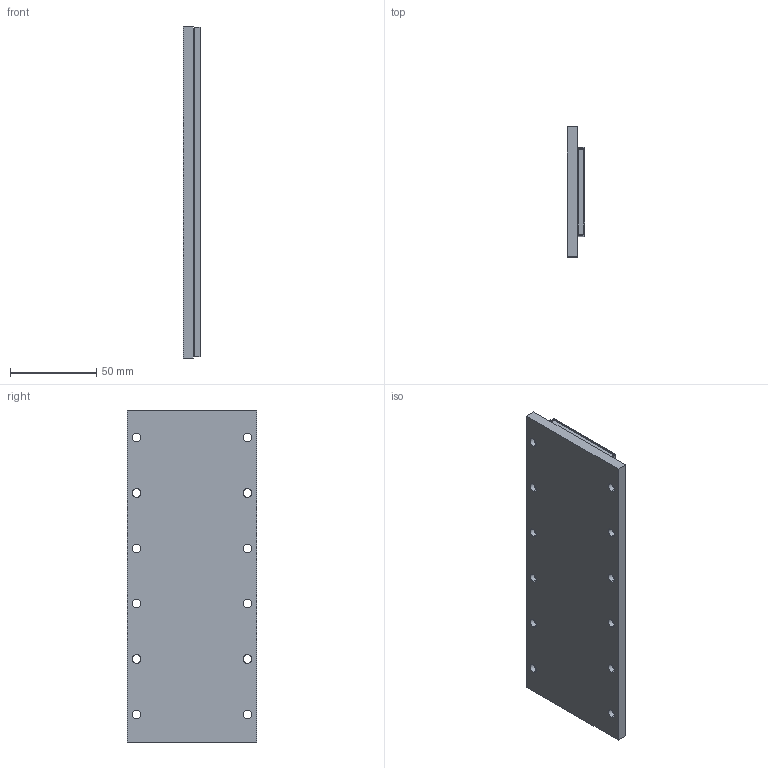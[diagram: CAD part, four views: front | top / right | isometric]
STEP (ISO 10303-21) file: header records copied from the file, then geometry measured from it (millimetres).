
FILE_DESCRIPTION (( 'STEP AP214' ), '1' );
FILE_NAME ('PIXM050-TL192-C.STEP', '2019-03-08T10:33:38', ( '' ), ( '' ), 'SwSTEP 2.0', 'SolidWorks 2016', '' );
FILE_SCHEMA (( 'AUTOMOTIVE_DESIGN' ));
Length unit declared in the file: millimetre
Products named in the file (4): 001SM050LXXX02_TL192; 001SM050000001-CUSTOMER_TL192; 001SM050LXXX01_TL192; PIXM050-TL192-C
Assembly tree (3 placements, depth 2):
  PIXM050-TL192-C
    001SM050LXXX01_TL192
    001SM050000001-CUSTOMER_TL192
    001SM050LXXX02_TL192
Bounding box: 10.3 x 75 x 192 mm (x, y, z)
Volume: 124803.1 mm3; surface area: 75905.9 mm2
Topology: 3 solids, 3 shells, 125 faces, 286 edges, 172 vertices
Faces by surface type: cylinder 64, plane 53, sphere 8
Entity records: 3662 total; most frequent: DIRECTION 668, CARTESIAN_POINT 581, ORIENTED_EDGE 556, EDGE_CURVE 278, AXIS2_PLACEMENT_3D 259, VERTEX_POINT 172, EDGE_LOOP 162, VECTOR 150
